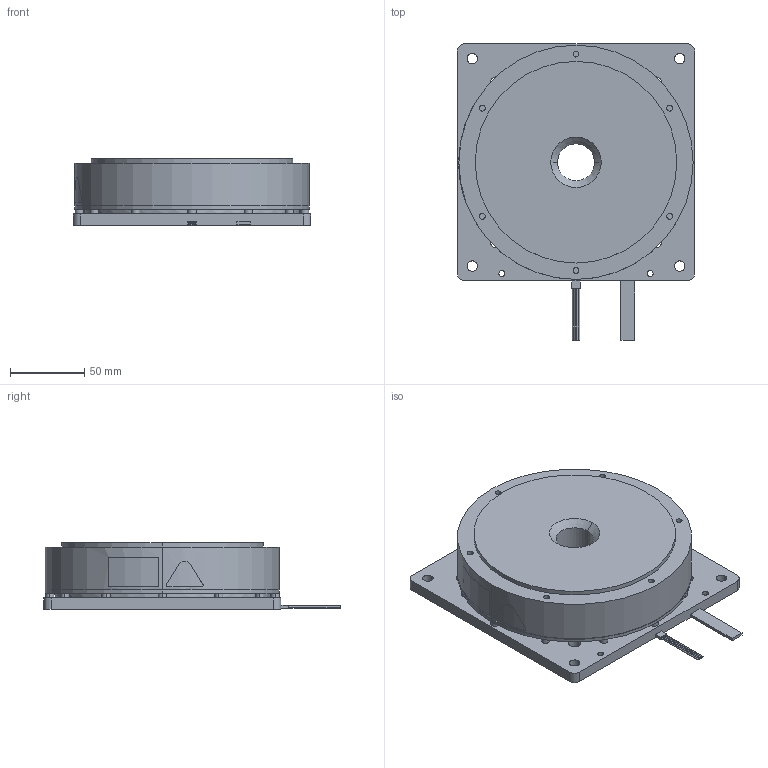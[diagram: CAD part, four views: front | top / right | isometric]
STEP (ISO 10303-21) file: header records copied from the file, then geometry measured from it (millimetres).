
FILE_DESCRIPTION (( 'STEP AP203' ), '1' );
FILE_NAME ('sgm7d_01g_c42.STEP', '2016-02-23T04:22:32', ( '' ), ( '' ), 'SwSTEP 2.0', 'SolidWorks 2010', '' );
FILE_SCHEMA (( 'CONFIG_CONTROL_DESIGN' ));
Length unit declared in the file: millimetre
Products named in the file (1): sgm7d_01g_c42
Bounding box: 160 x 200 x 45 mm (x, y, z)
Volume: 878676.5 mm3; surface area: 87196.2 mm2
Topology: 1 solids, 1 shells, 141 faces, 326 edges, 214 vertices
Faces by surface type: cylinder 82, plane 52, bspline 5, cone 2
Entity records: 4445 total; most frequent: CARTESIAN_POINT 977, DIRECTION 768, ORIENTED_EDGE 652, EDGE_CURVE 326, AXIS2_PLACEMENT_3D 321, VERTEX_POINT 214, EDGE_LOOP 190, CIRCLE 184
